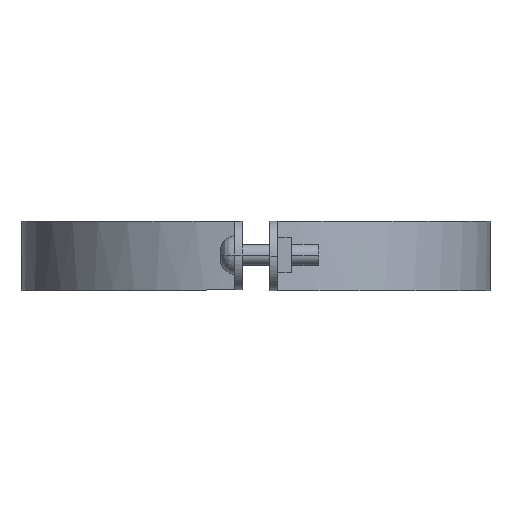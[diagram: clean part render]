
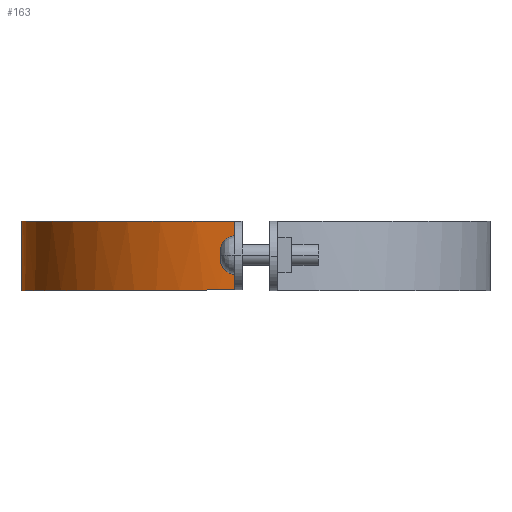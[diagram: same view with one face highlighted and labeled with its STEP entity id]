
A CAD part, left-side view. The second image highlights one B-rep face of the part: STEP entity #163.
In plain terms, the highlighted free-form (B-spline) face has degree [3, 1] with [4, 2] control points.
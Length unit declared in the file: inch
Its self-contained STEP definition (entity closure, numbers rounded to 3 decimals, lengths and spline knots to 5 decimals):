
#163=ADVANCED_FACE('',(#381),#382,.T.);
#381=FACE_OUTER_BOUND('',#686,.T.);
#382=B_SPLINE_SURFACE_WITH_KNOTS('',3,1,((#687,#688),(#689,#690),(#691,#692),(#693,#694)),.UNSPECIFIED.,.F.,.F.,.F.,(4,4),(2,2),(0.0,1.0),(0.0,1.25),.UNSPECIFIED.);
#686=EDGE_LOOP('',(#1437,#1438,#1439,#1440));
#687=CARTESIAN_POINT('',(4.87749,8.29716,0.0));
#688=CARTESIAN_POINT('',(4.87749,8.29716,1.25));
#689=CARTESIAN_POINT('',(2.7069,8.29716,0.0));
#690=CARTESIAN_POINT('',(2.7069,8.29716,1.25));
#691=CARTESIAN_POINT('',(0.89381,6.64339,0.0));
#692=CARTESIAN_POINT('',(0.89381,6.64339,1.25));
#693=CARTESIAN_POINT('',(0.69473,4.48197,0.0));
#694=CARTESIAN_POINT('',(0.69473,4.48197,1.25));
#1437=ORIENTED_EDGE('',*,*,#2026,.T.);
#1438=ORIENTED_EDGE('',*,*,#2027,.T.);
#1439=ORIENTED_EDGE('',*,*,#2028,.T.);
#1440=ORIENTED_EDGE('',*,*,#2029,.F.);
#2026=EDGE_CURVE('',#2322,#2323,#2324,.T.);
#2027=EDGE_CURVE('',#2323,#2325,#2326,.T.);
#2028=EDGE_CURVE('',#2325,#2327,#2328,.T.);
#2029=EDGE_CURVE('',#2322,#2327,#2329,.T.);
#2322=VERTEX_POINT('',#2796);
#2323=VERTEX_POINT('',#2797);
#2324=B_SPLINE_CURVE_WITH_KNOTS('',3,(#2798,#2799,#2800,#2801,#2802,#2803,#2804,#2805,#2806,#2807),.UNSPECIFIED.,.F.,.F.,(4,2,2,2,4),(-6.24523,-4.71903,-3.24298,-1.62209,-0.0),.UNSPECIFIED.);
#2325=VERTEX_POINT('',#2808);
#2326=LINE('',#2809,#2810);
#2327=VERTEX_POINT('',#2811);
#2328=B_SPLINE_CURVE_WITH_KNOTS('',3,(#2812,#2813,#2814,#2815),.UNSPECIFIED.,.F.,.F.,(4,4),(-1.0,-0.0),.UNSPECIFIED.);
#2329=LINE('',#2816,#2817);
#2796=CARTESIAN_POINT('',(4.87749,8.29716,0.00159));
#2797=CARTESIAN_POINT('',(0.69473,4.48197,0.01671));
#2798=CARTESIAN_POINT('',(4.87749,8.29716,0.00159));
#2799=CARTESIAN_POINT('',(4.36891,8.29716,0.00159));
#2800=CARTESIAN_POINT('',(3.86757,8.20637,0.00195));
#2801=CARTESIAN_POINT('',(2.9332,7.85307,0.00335));
#2802=CARTESIAN_POINT('',(2.50787,7.59961,0.00436));
#2803=CARTESIAN_POINT('',(1.72765,6.92732,0.00702));
#2804=CARTESIAN_POINT('',(1.38978,6.49989,0.00871));
#2805=CARTESIAN_POINT('',(0.8953,5.54079,0.01251));
#2806=CARTESIAN_POINT('',(0.74432,5.02039,0.01457));
#2807=CARTESIAN_POINT('',(0.69473,4.48197,0.01671));
#2808=CARTESIAN_POINT('',(0.69473,4.48197,1.25));
#2809=CARTESIAN_POINT('',(0.69473,4.48197,0.0));
#2810=VECTOR('',#3404,1.0);
#2811=CARTESIAN_POINT('',(4.87749,8.29716,1.25));
#2812=CARTESIAN_POINT('',(0.69473,4.48197,1.25));
#2813=CARTESIAN_POINT('',(0.89381,6.64339,1.25));
#2814=CARTESIAN_POINT('',(2.7069,8.29716,1.25));
#2815=CARTESIAN_POINT('',(4.87749,8.29716,1.25));
#2816=CARTESIAN_POINT('',(4.87749,8.29716,0.0));
#2817=VECTOR('',#3405,1.0);
#3404=DIRECTION('',(0.0,0.0,1.0));
#3405=DIRECTION('',(0.0,0.0,1.0));
